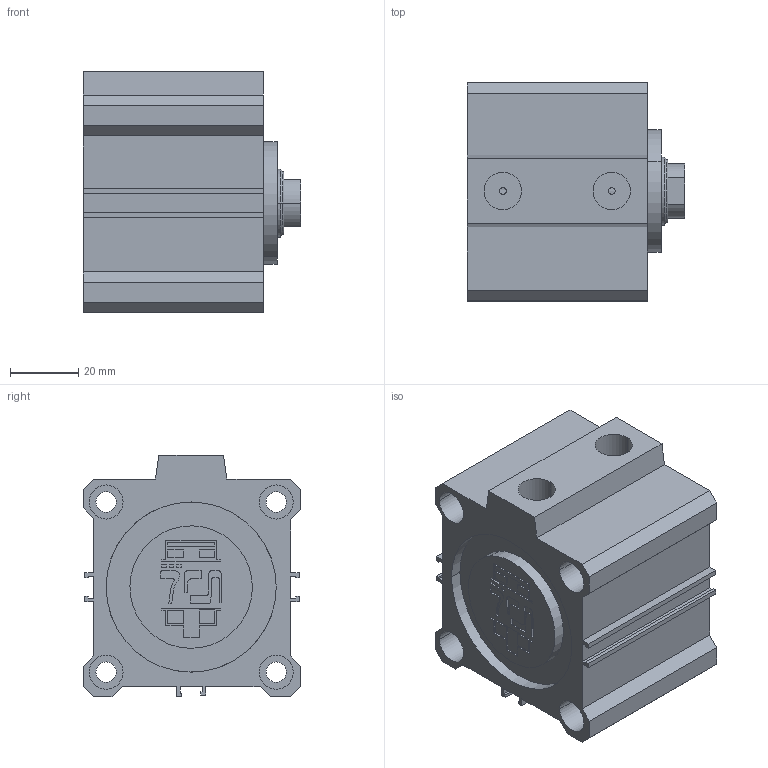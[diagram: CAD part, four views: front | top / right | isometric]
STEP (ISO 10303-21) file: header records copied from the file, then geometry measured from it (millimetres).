
FILE_DESCRIPTION(('CATIA V5 STEP Exchange'),'2;1');
FILE_NAME('D:\PDA\PDA-STP\PDA 50-20\PDA 50-20-15.stp','2016-02-02T10:48:08+00:00',('none'),('none'),'Version 5-6 Release 2012','CATIA V5 STEP AP203','none');
FILE_SCHEMA(('CONFIG_CONTROL_DESIGN'));
Length unit declared in the file: millimetre
Products named in the file (1): PDA 50-20-15-00
Assembly tree (2 placements, depth 2):
  PDA 50-20-15-00
    #58
    #6574
Bounding box: 64 x 64 x 71 mm (x, y, z)
Volume: 162947.4 mm3; surface area: 50537.4 mm2
Topology: 2 solids, 2 shells, 248 faces, 640 edges, 428 vertices
Faces by surface type: plane 172, cylinder 72, cone 2, torus 2
Entity records: 7094 total; most frequent: ORIENTED_EDGE 1280, CARTESIAN_POINT 1265, DIRECTION 966, EDGE_CURVE 640, VECTOR 482, LINE 482, VERTEX_POINT 428, AXIS2_PLACEMENT_3D 319
